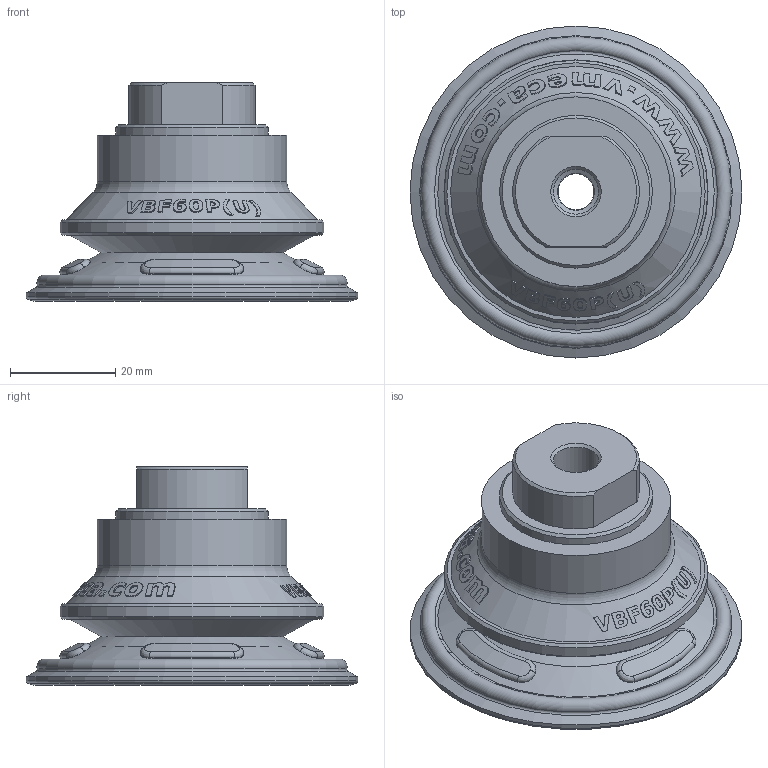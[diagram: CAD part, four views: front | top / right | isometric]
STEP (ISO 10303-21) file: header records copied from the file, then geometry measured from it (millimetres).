
FILE_DESCRIPTION( ( 'Unknown' ), '1' );
FILE_NAME( 'D:/濛機奢濰/Vacuum Pads/VBF/VBF60/STP/VBF60 P(U)_18F.stp', 'Unknown', ( 'Unknown' ), ( 'Unknown' ), 'XStep 1.0', 'Unknown', ' ' );
FILE_SCHEMA( ( 'automotive_design' ) );
Length unit declared in the file: millimetre
Products named in the file (1): 1
Bounding box: 63 x 63 x 41.5 mm (x, y, z)
Volume: 29160.2 mm3; surface area: 15984 mm2
Topology: 1 solids, 1 shells, 319 faces, 761 edges, 490 vertices
Faces by surface type: bspline 204, cone 59, plane 20, cylinder 19, torus 17
Full cylindrical faces by diameter (mm): 5 x8, 7 x1, 8.566 x2, 12 x1, 28 x1, 29 x1, 36 x1, 49.995 x1, 63 x1
Entity records: 21871 total; most frequent: CARTESIAN_POINT 13831, ORIENTED_EDGE 1422, EDGE_CURVE 711, B_SPLINE_CURVE_WITH_KNOTS 588, VERTEX_POINT 485, DIRECTION 470, EDGE_LOOP 412, FACE_OUTER_BOUND 349
